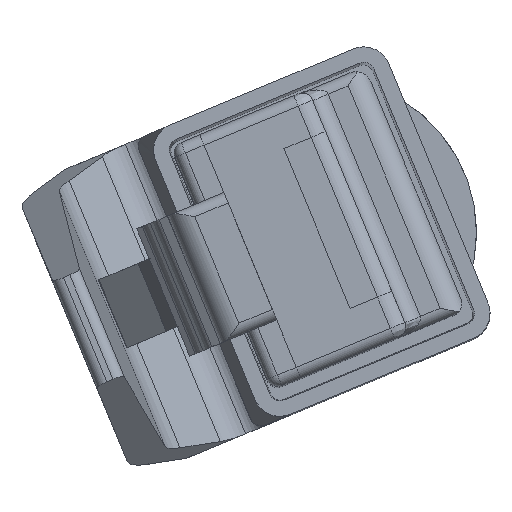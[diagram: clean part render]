
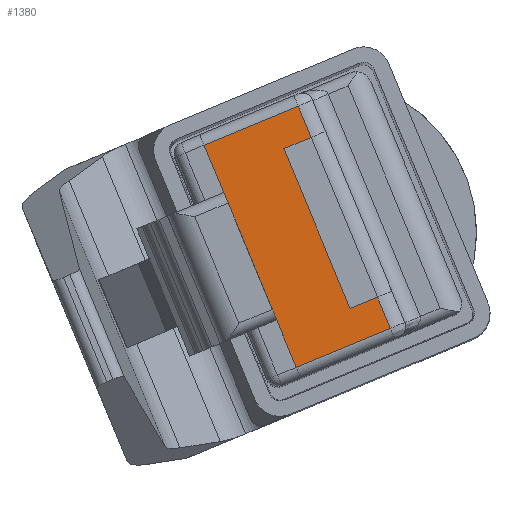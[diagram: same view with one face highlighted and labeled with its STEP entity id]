
A CAD part, top view. The second image highlights one B-rep face of the part: STEP entity #1380.
In plain terms, the highlighted planar face has unit normal (0, 0, 1).
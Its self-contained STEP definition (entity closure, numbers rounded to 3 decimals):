
#1048=FACE_OUTER_BOUND('',#2005,.T.);
#1380=ADVANCED_FACE('SPLSRF1',(#1048),#1676,.F.);
#1676=PLANE('',#7362);
#2005=EDGE_LOOP('',(#3017,#3018,#3019,#3020,#3021,#3022,#3023,#3024,#3025,
#3026));
#3017=ORIENTED_EDGE('',*,*,#4986,.F.);
#3018=ORIENTED_EDGE('',*,*,#4987,.T.);
#3019=ORIENTED_EDGE('',*,*,#4988,.T.);
#3020=ORIENTED_EDGE('',*,*,#4989,.F.);
#3021=ORIENTED_EDGE('',*,*,#4990,.F.);
#3022=ORIENTED_EDGE('',*,*,#4991,.T.);
#3023=ORIENTED_EDGE('',*,*,#4992,.F.);
#3024=ORIENTED_EDGE('',*,*,#4993,.F.);
#3025=ORIENTED_EDGE('',*,*,#4994,.F.);
#3026=ORIENTED_EDGE('',*,*,#4995,.F.);
#4257=VERTEX_POINT('',#10344);
#4258=VERTEX_POINT('',#10345);
#4259=VERTEX_POINT('',#10347);
#4260=VERTEX_POINT('',#10349);
#4261=VERTEX_POINT('',#10351);
#4262=VERTEX_POINT('',#10353);
#4263=VERTEX_POINT('',#10355);
#4264=VERTEX_POINT('',#10357);
#4265=VERTEX_POINT('',#10359);
#4266=VERTEX_POINT('',#10361);
#4986=EDGE_CURVE('',#4257,#4258,#6083,.T.);
#4987=EDGE_CURVE('',#4257,#4259,#6084,.T.);
#4988=EDGE_CURVE('',#4259,#4260,#6085,.T.);
#4989=EDGE_CURVE('',#4261,#4260,#6086,.T.);
#4990=EDGE_CURVE('LINE47',#4262,#4261,#6087,.T.);
#4991=EDGE_CURVE('LINE4',#4262,#4263,#6088,.T.);
#4992=EDGE_CURVE('LINE3',#4264,#4263,#6089,.T.);
#4993=EDGE_CURVE('LINE201',#4265,#4264,#6090,.T.);
#4994=EDGE_CURVE('LINE2',#4266,#4265,#6091,.T.);
#4995=EDGE_CURVE('LINE1',#4258,#4266,#6092,.T.);
#6083=LINE('',#10343,#6678);
#6084=LINE('',#10346,#6679);
#6085=LINE('',#10348,#6680);
#6086=LINE('',#10350,#6681);
#6087=LINE('',#10352,#6682);
#6088=LINE('',#10354,#6683);
#6089=LINE('',#10356,#6684);
#6090=LINE('',#10358,#6685);
#6091=LINE('',#10360,#6686);
#6092=LINE('',#10362,#6687);
#6678=VECTOR('',#8473,1.);
#6679=VECTOR('',#8474,1.);
#6680=VECTOR('',#8475,1.);
#6681=VECTOR('',#8476,1.);
#6682=VECTOR('',#8477,1.);
#6683=VECTOR('',#8478,1.);
#6684=VECTOR('',#8479,1.);
#6685=VECTOR('',#8480,1.);
#6686=VECTOR('',#8481,1.);
#6687=VECTOR('',#8482,1.);
#7362=AXIS2_PLACEMENT_3D('',#10363,#8483,#8484);
#8473=DIRECTION('',(0.383,-0.924,0.));
#8474=DIRECTION('',(-0.924,-0.383,0.));
#8475=DIRECTION('',(-0.383,0.924,0.));
#8476=DIRECTION('',(-0.924,-0.383,0.));
#8477=DIRECTION('',(0.383,-0.924,0.));
#8478=DIRECTION('',(-0.924,-0.383,0.));
#8479=DIRECTION('',(-0.383,0.924,0.));
#8480=DIRECTION('',(-0.383,0.924,0.));
#8481=DIRECTION('',(-0.383,0.924,0.));
#8482=DIRECTION('',(-0.924,-0.383,0.));
#8483=DIRECTION('',(0.,0.,-1.));
#8484=DIRECTION('',(0.924,0.383,0.));
#10343=CARTESIAN_POINT('',(-39.247,26.267,23.01));
#10344=CARTESIAN_POINT('',(-35.742,17.815,23.01));
#10345=CARTESIAN_POINT('',(-35.167,16.429,23.01));
#10346=CARTESIAN_POINT('',(-35.105,18.079,23.01));
#10347=CARTESIAN_POINT('',(-36.952,17.313,23.01));
#10348=CARTESIAN_POINT('',(-36.952,17.313,23.01));
#10349=CARTESIAN_POINT('',(-39.882,24.38,23.01));
#10350=CARTESIAN_POINT('',(-38.035,25.146,23.01));
#10351=CARTESIAN_POINT('',(-38.672,24.881,23.01));
#10352=CARTESIAN_POINT('',(-39.247,26.267,23.01));
#10353=CARTESIAN_POINT('',(-39.247,26.267,23.01));
#10354=CARTESIAN_POINT('',(-39.247,26.267,23.01));
#10355=CARTESIAN_POINT('',(-43.413,24.539,23.01));
#10356=CARTESIAN_POINT('',(-42.541,22.438,23.01));
#10357=CARTESIAN_POINT('',(-42.541,22.438,23.01));
#10358=CARTESIAN_POINT('',(-40.205,16.803,23.01));
#10359=CARTESIAN_POINT('',(-40.205,16.803,23.01));
#10360=CARTESIAN_POINT('',(-39.333,14.702,23.01));
#10361=CARTESIAN_POINT('',(-39.333,14.702,23.01));
#10362=CARTESIAN_POINT('',(-35.167,16.429,23.01));
#10363=CARTESIAN_POINT('',(-43.578,24.702,23.01));
